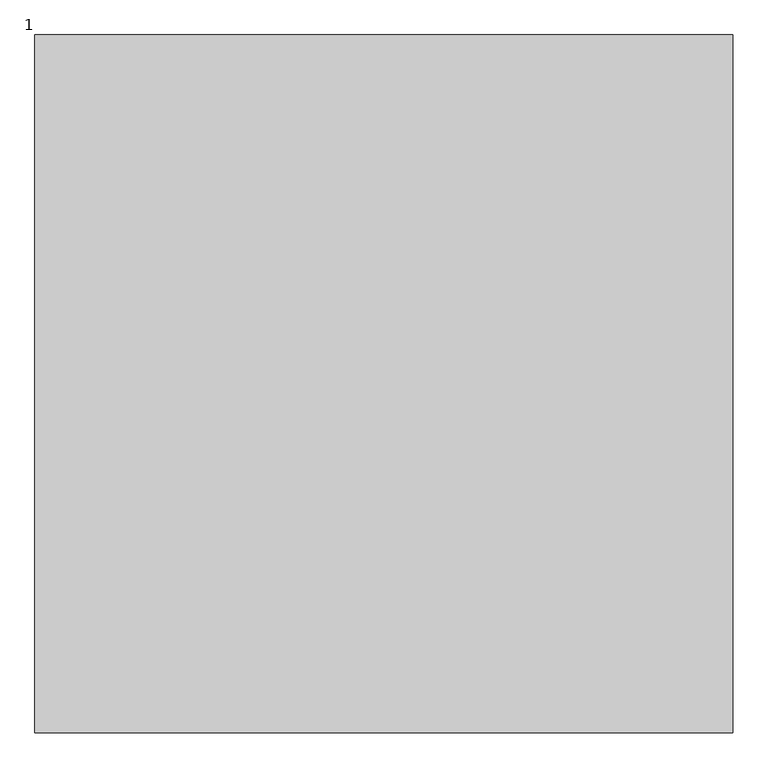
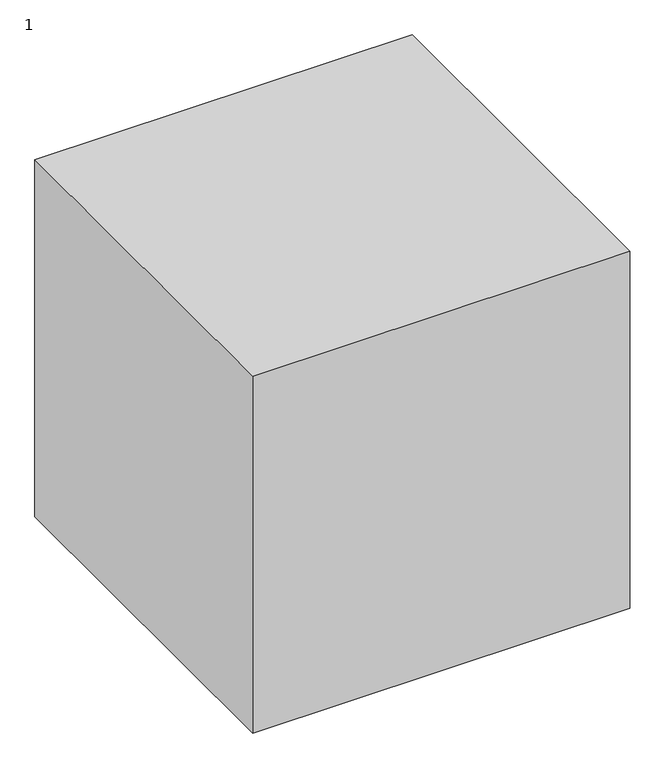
"""IFC4 building model written with IfcOpenShell, lengths in millimetres: proxy geometry, 1222111211 : 1."""

from ifc_helpers import new_model, si_unit, origin, origin_with_axes, place, context, project, spatial, polyline, outline, extrude, source, transform, mapped, element, save


def proxy_1_6ed665f9(model_context):
    return source(origin(), model_context, "Body", "SweptSolid", [
        extrude(outline(polyline([(3692.0243292, -664.7705528), (3692.0243292, -1664.7705528), (2692.0243292, -1664.7705528), (2692.0243292, -664.7705528), (3692.0243292, -664.7705528)])), origin_with_axes(), (0.0, 0.0, 1.0), 1000.0),
    ])


if __name__ == "__main__":
    model = new_model("IFC4")
    model_context = context("Model", 3, world=origin())
    ifc_project = project(units=[si_unit("LENGTHUNIT", "METRE", prefix="MILLI")], contexts=[model_context])
    site = spatial("IfcSite", under=ifc_project)
    building = spatial("IfcBuilding", under=site)
    placement = place(None, origin())
    proxy_1_shape = proxy_1_6ed665f9(model_context)
    element("IfcBuildingElementProxy", 1, Name="1222111211 : 1", ObjectType="1222111211 : 1", at=placement, inside=building, context=model_context, shape_type="MappedRepresentation", body=[
        mapped(proxy_1_shape, transform((0.0, 0.0, 0.0), x_axis=(1.0, 0.0, 0.0), y_axis=(0.0, 1.0, 0.0), z_axis=(0.0, 0.0, 1.0))),
    ])
    save(model, "model.ifc")
